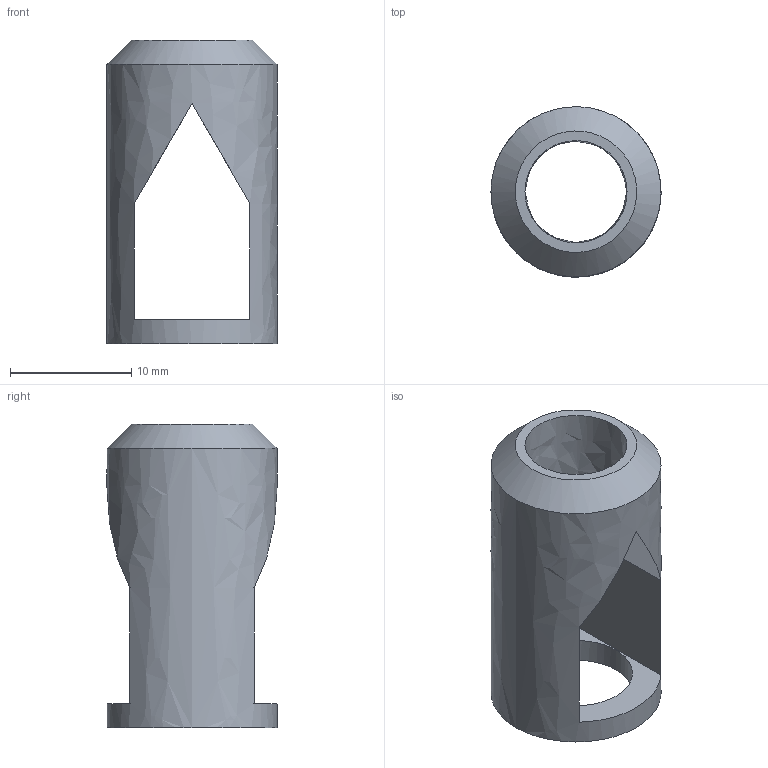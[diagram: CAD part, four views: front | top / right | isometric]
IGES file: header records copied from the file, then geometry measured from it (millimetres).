
Global section: file name: ball joint magnet socket; native system: unknown; preprocessor: unknown; author: unknown; organization: unknown; date: 20150909.232352; units: millimetre
Bounding box: 14 x 14 x 25 mm (x, y, z)
Volume: 1481.9 mm3; surface area: 1649 mm2
Topology: 1 solids, 1 shells, 11 faces, 29 edges, 19 vertices
Faces by surface type: bspline 11
